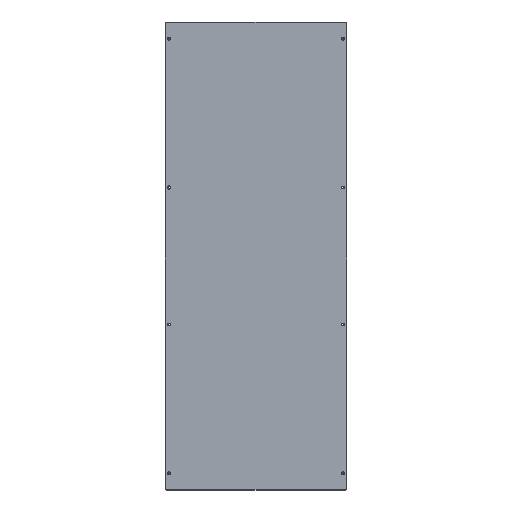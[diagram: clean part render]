
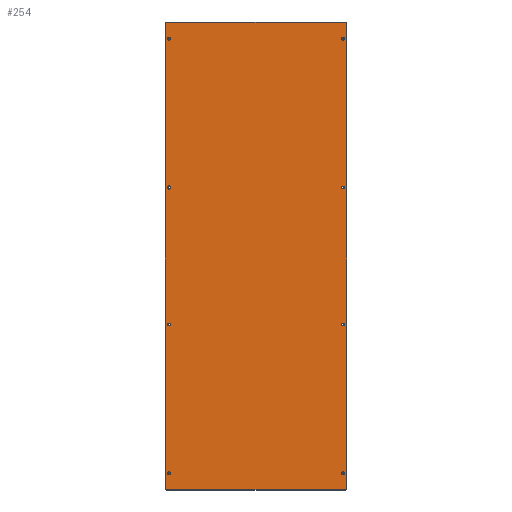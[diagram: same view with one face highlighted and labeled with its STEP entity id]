
A CAD part, top view. The second image highlights one B-rep face of the part: STEP entity #254.
In plain terms, the highlighted planar face has unit normal (0, 0, 1).
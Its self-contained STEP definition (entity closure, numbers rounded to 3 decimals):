
#254 = ADVANCED_FACE( '', ( #565, #566, #567, #568, #569, #570, #571, #572, #573 ), #574, .F. );
#565 = FACE_BOUND( '', #926, .T. );
#566 = FACE_BOUND( '', #927, .T. );
#567 = FACE_BOUND( '', #928, .T. );
#568 = FACE_BOUND( '', #929, .T. );
#569 = FACE_BOUND( '', #930, .T. );
#570 = FACE_BOUND( '', #931, .T. );
#571 = FACE_BOUND( '', #932, .T. );
#572 = FACE_BOUND( '', #933, .T. );
#573 = FACE_OUTER_BOUND( '', #934, .T. );
#574 = PLANE( '', #935 );
#926 = EDGE_LOOP( '', ( #1627 ) );
#927 = EDGE_LOOP( '', ( #1628 ) );
#928 = EDGE_LOOP( '', ( #1629 ) );
#929 = EDGE_LOOP( '', ( #1630 ) );
#930 = EDGE_LOOP( '', ( #1631 ) );
#931 = EDGE_LOOP( '', ( #1632 ) );
#932 = EDGE_LOOP( '', ( #1633 ) );
#933 = EDGE_LOOP( '', ( #1634 ) );
#934 = EDGE_LOOP( '', ( #1635, #1636, #1637, #1638, #1639, #1640, #1641, #1642, #1643, #1644, #1645, #1646 ) );
#935 = AXIS2_PLACEMENT_3D( '', #1647, #1648, #1649 );
#1627 = ORIENTED_EDGE( '', *, *, #2151, .F. );
#1628 = ORIENTED_EDGE( '', *, *, #2345, .F. );
#1629 = ORIENTED_EDGE( '', *, *, #2246, .F. );
#1630 = ORIENTED_EDGE( '', *, *, #2095, .F. );
#1631 = ORIENTED_EDGE( '', *, *, #2346, .F. );
#1632 = ORIENTED_EDGE( '', *, *, #2223, .F. );
#1633 = ORIENTED_EDGE( '', *, *, #2092, .F. );
#1634 = ORIENTED_EDGE( '', *, *, #2100, .F. );
#1635 = ORIENTED_EDGE( '', *, *, #2347, .F. );
#1636 = ORIENTED_EDGE( '', *, *, #2348, .F. );
#1637 = ORIENTED_EDGE( '', *, *, #2349, .T. );
#1638 = ORIENTED_EDGE( '', *, *, #2350, .T. );
#1639 = ORIENTED_EDGE( '', *, *, #2216, .F. );
#1640 = ORIENTED_EDGE( '', *, *, #2351, .T. );
#1641 = ORIENTED_EDGE( '', *, *, #2352, .T. );
#1642 = ORIENTED_EDGE( '', *, *, #2113, .T. );
#1643 = ORIENTED_EDGE( '', *, *, #2353, .F. );
#1644 = ORIENTED_EDGE( '', *, *, #2335, .F. );
#1645 = ORIENTED_EDGE( '', *, *, #2354, .T. );
#1646 = ORIENTED_EDGE( '', *, *, #2302, .F. );
#1647 = CARTESIAN_POINT( '', ( -381., 1961.5, 18. ) );
#1648 = DIRECTION( '', ( 0., 0., -1. ) );
#1649 = DIRECTION( '', ( -1., 0., 0. ) );
#2092 = EDGE_CURVE( '', #2504, #2504, #2505, .F. );
#2095 = EDGE_CURVE( '', #2509, #2509, #2510, .F. );
#2100 = EDGE_CURVE( '', #2517, #2517, #2518, .F. );
#2113 = EDGE_CURVE( '', #2541, #2539, #2542, .T. );
#2151 = EDGE_CURVE( '', #2604, #2604, #2605, .F. );
#2216 = EDGE_CURVE( '', #2713, #2715, #2716, .T. );
#2223 = EDGE_CURVE( '', #2726, #2726, #2727, .F. );
#2246 = EDGE_CURVE( '', #2763, #2763, #2764, .F. );
#2302 = EDGE_CURVE( '', #2850, #2845, #2852, .T. );
#2335 = EDGE_CURVE( '', #2896, #2894, #2898, .T. );
#2345 = EDGE_CURVE( '', #2909, #2909, #2910, .F. );
#2346 = EDGE_CURVE( '', #2911, #2911, #2912, .F. );
#2347 = EDGE_CURVE( '', #2913, #2850, #2914, .T. );
#2348 = EDGE_CURVE( '', #2915, #2913, #2916, .T. );
#2349 = EDGE_CURVE( '', #2915, #2917, #2918, .T. );
#2350 = EDGE_CURVE( '', #2917, #2715, #2919, .T. );
#2351 = EDGE_CURVE( '', #2713, #2920, #2921, .T. );
#2352 = EDGE_CURVE( '', #2920, #2541, #2922, .T. );
#2353 = EDGE_CURVE( '', #2894, #2539, #2923, .T. );
#2354 = EDGE_CURVE( '', #2896, #2845, #2924, .T. );
#2504 = VERTEX_POINT( '', #3103 );
#2505 = CIRCLE( '', #3104, 6.138 );
#2509 = VERTEX_POINT( '', #3108 );
#2510 = CIRCLE( '', #3109, 6.492 );
#2517 = VERTEX_POINT( '', #3117 );
#2518 = CIRCLE( '', #3118, 6.492 );
#2539 = VERTEX_POINT( '', #3144 );
#2541 = VERTEX_POINT( '', #3147 );
#2542 = LINE( '', #3148, #3149 );
#2604 = VERTEX_POINT( '', #3240 );
#2605 = CIRCLE( '', #3241, 6.138 );
#2713 = VERTEX_POINT( '', #3396 );
#2715 = VERTEX_POINT( '', #3399 );
#2716 = LINE( '', #3400, #3401 );
#2726 = VERTEX_POINT( '', #3415 );
#2727 = CIRCLE( '', #3416, 6.138 );
#2763 = VERTEX_POINT( '', #3466 );
#2764 = CIRCLE( '', #3467, 6.138 );
#2845 = VERTEX_POINT( '', #3608 );
#2850 = VERTEX_POINT( '', #3615 );
#2852 = LINE( '', #3618, #3619 );
#2894 = VERTEX_POINT( '', #3681 );
#2896 = VERTEX_POINT( '', #3684 );
#2898 = LINE( '', #3687, #3688 );
#2909 = VERTEX_POINT( '', #3703 );
#2910 = CIRCLE( '', #3704, 6.138 );
#2911 = VERTEX_POINT( '', #3705 );
#2912 = CIRCLE( '', #3706, 6.138 );
#2913 = VERTEX_POINT( '', #3707 );
#2914 = LINE( '', #3708, #3709 );
#2915 = VERTEX_POINT( '', #3710 );
#2916 = LINE( '', #3711, #3712 );
#2917 = VERTEX_POINT( '', #3713 );
#2918 = LINE( '', #3714, #3715 );
#2919 = LINE( '', #3716, #3717 );
#2920 = VERTEX_POINT( '', #3718 );
#2921 = LINE( '', #3719, #3720 );
#2922 = LINE( '', #3721, #3722 );
#2923 = LINE( '', #3723, #3724 );
#2924 = LINE( '', #3725, #3726 );
#3103 = CARTESIAN_POINT( '', ( -371.138, 69.5, 18. ) );
#3104 = AXIS2_PLACEMENT_3D( '', #3934, #3935, #3936 );
#3108 = CARTESIAN_POINT( '', ( -371.492, 1269.5, 18. ) );
#3109 = AXIS2_PLACEMENT_3D( '', #3940, #3941, #3942 );
#3117 = CARTESIAN_POINT( '', ( -371.492, 1894.5, 18. ) );
#3118 = AXIS2_PLACEMENT_3D( '', #3947, #3948, #3949 );
#3144 = CARTESIAN_POINT( '', ( -378.5, 0., 18. ) );
#3147 = CARTESIAN_POINT( '', ( -378.5, 2.5, 18. ) );
#3148 = CARTESIAN_POINT( '', ( -378.5, 1964., 18. ) );
#3149 = VECTOR( '', #3965, 1000. );
#3240 = CARTESIAN_POINT( '', ( 358.862, 1269.5, 18. ) );
#3241 = AXIS2_PLACEMENT_3D( '', #4001, #4002, #4003 );
#3396 = CARTESIAN_POINT( '', ( -381., 1961.5, 18. ) );
#3399 = CARTESIAN_POINT( '', ( -378.5, 1961.5, 18. ) );
#3400 = CARTESIAN_POINT( '', ( -381., 1961.5, 18. ) );
#3401 = VECTOR( '', #4082, 1000. );
#3415 = CARTESIAN_POINT( '', ( 358.862, 69.5, 18. ) );
#3416 = AXIS2_PLACEMENT_3D( '', #4090, #4091, #4092 );
#3466 = CARTESIAN_POINT( '', ( -371.138, 694.5, 18. ) );
#3467 = AXIS2_PLACEMENT_3D( '', #4116, #4117, #4118 );
#3608 = CARTESIAN_POINT( '', ( 381., 2.5, 18. ) );
#3615 = CARTESIAN_POINT( '', ( 381., 1961.5, 18. ) );
#3618 = CARTESIAN_POINT( '', ( 381., 1961.5, 18. ) );
#3619 = VECTOR( '', #4161, 1000. );
#3681 = CARTESIAN_POINT( '', ( 378.5, 0., 18. ) );
#3684 = CARTESIAN_POINT( '', ( 378.5, 2.5, 18. ) );
#3687 = CARTESIAN_POINT( '', ( 378.5, 1964., 18. ) );
#3688 = VECTOR( '', #4187, 1000. );
#3703 = CARTESIAN_POINT( '', ( 358.862, 694.5, 18. ) );
#3704 = AXIS2_PLACEMENT_3D( '', #4195, #4196, #4197 );
#3705 = CARTESIAN_POINT( '', ( 358.862, 1894.5, 18. ) );
#3706 = AXIS2_PLACEMENT_3D( '', #4198, #4199, #4200 );
#3707 = CARTESIAN_POINT( '', ( 378.5, 1961.5, 18. ) );
#3708 = CARTESIAN_POINT( '', ( -381., 1961.5, 18. ) );
#3709 = VECTOR( '', #4201, 1000. );
#3710 = CARTESIAN_POINT( '', ( 378.5, 1964., 18. ) );
#3711 = CARTESIAN_POINT( '', ( 378.5, 1964., 18. ) );
#3712 = VECTOR( '', #4202, 1000. );
#3713 = CARTESIAN_POINT( '', ( -378.5, 1964., 18. ) );
#3714 = CARTESIAN_POINT( '', ( 378.5, 1964., 18. ) );
#3715 = VECTOR( '', #4203, 1000. );
#3716 = CARTESIAN_POINT( '', ( -378.5, 1964., 18. ) );
#3717 = VECTOR( '', #4204, 1000. );
#3718 = CARTESIAN_POINT( '', ( -381., 2.5, 18. ) );
#3719 = CARTESIAN_POINT( '', ( -381., 1961.5, 18. ) );
#3720 = VECTOR( '', #4205, 1000. );
#3721 = CARTESIAN_POINT( '', ( -381., 2.5, 18. ) );
#3722 = VECTOR( '', #4206, 1000. );
#3723 = CARTESIAN_POINT( '', ( 378.5, 0., 18. ) );
#3724 = VECTOR( '', #4207, 1000. );
#3725 = CARTESIAN_POINT( '', ( -381., 2.5, 18. ) );
#3726 = VECTOR( '', #4208, 1000. );
#3934 = CARTESIAN_POINT( '', ( -365., 69.5, 18. ) );
#3935 = DIRECTION( '', ( 0., 0., -1. ) );
#3936 = DIRECTION( '', ( -1., 0., 0. ) );
#3940 = CARTESIAN_POINT( '', ( -365., 1269.5, 18. ) );
#3941 = DIRECTION( '', ( 0., 0., -1. ) );
#3942 = DIRECTION( '', ( -1., 0., 0. ) );
#3947 = CARTESIAN_POINT( '', ( -365., 1894.5, 18. ) );
#3948 = DIRECTION( '', ( 0., 0., -1. ) );
#3949 = DIRECTION( '', ( -1., 0., 0. ) );
#3965 = DIRECTION( '', ( 0., -1., 0. ) );
#4001 = CARTESIAN_POINT( '', ( 365., 1269.5, 18. ) );
#4002 = DIRECTION( '', ( 0., 0., -1. ) );
#4003 = DIRECTION( '', ( -1., 0., 0. ) );
#4082 = DIRECTION( '', ( 1., 0., 0. ) );
#4090 = CARTESIAN_POINT( '', ( 365., 69.5, 18. ) );
#4091 = DIRECTION( '', ( 0., 0., -1. ) );
#4092 = DIRECTION( '', ( -1., 0., 0. ) );
#4116 = CARTESIAN_POINT( '', ( -365., 694.5, 18. ) );
#4117 = DIRECTION( '', ( 0., 0., -1. ) );
#4118 = DIRECTION( '', ( -1., 0., 0. ) );
#4161 = DIRECTION( '', ( 0., -1., 0. ) );
#4187 = DIRECTION( '', ( 0., -1., 0. ) );
#4195 = CARTESIAN_POINT( '', ( 365., 694.5, 18. ) );
#4196 = DIRECTION( '', ( 0., 0., -1. ) );
#4197 = DIRECTION( '', ( -1., 0., 0. ) );
#4198 = CARTESIAN_POINT( '', ( 365., 1894.5, 18. ) );
#4199 = DIRECTION( '', ( 0., 0., -1. ) );
#4200 = DIRECTION( '', ( -1., 0., 0. ) );
#4201 = DIRECTION( '', ( 1., 0., 0. ) );
#4202 = DIRECTION( '', ( 0., -1., 0. ) );
#4203 = DIRECTION( '', ( -1., 0., 0. ) );
#4204 = DIRECTION( '', ( 0., -1., 0. ) );
#4205 = DIRECTION( '', ( 0., -1., 0. ) );
#4206 = DIRECTION( '', ( 1., 0., 0. ) );
#4207 = DIRECTION( '', ( -1., 0., 0. ) );
#4208 = DIRECTION( '', ( 1., 0., 0. ) );
